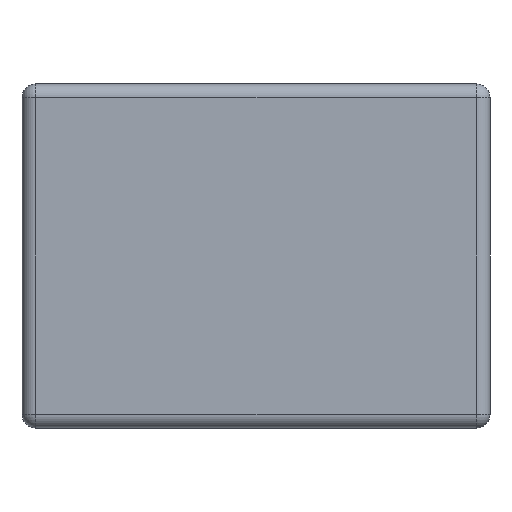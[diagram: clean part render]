
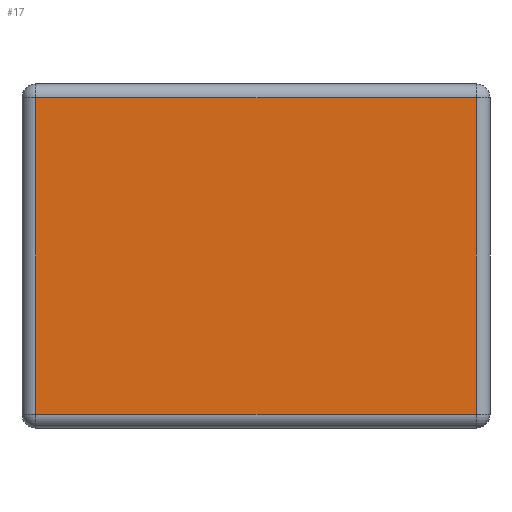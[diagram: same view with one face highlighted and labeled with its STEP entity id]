
A CAD part, left-side view. The second image highlights one B-rep face of the part: STEP entity #17.
In plain terms, the highlighted planar face has unit normal (-1, 0, 0).
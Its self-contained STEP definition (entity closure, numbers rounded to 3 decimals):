
#17 = ADVANCED_FACE('',(#18),#32,.F.);
#18 = FACE_BOUND('',#19,.F.);
#19 = EDGE_LOOP('',(#20,#55,#83,#111));
#20 = ORIENTED_EDGE('',*,*,#21,.F.);
#21 = EDGE_CURVE('',#22,#24,#26,.T.);
#22 = VERTEX_POINT('',#23);
#23 = CARTESIAN_POINT('',(-47.,-159.,218.));
#24 = VERTEX_POINT('',#25);
#25 = CARTESIAN_POINT('',(-47.,-159.,264.));
#26 = SURFACE_CURVE('',#27,(#31,#43),.PCURVE_S1.);
#27 = LINE('',#28,#29);
#28 = CARTESIAN_POINT('',(-47.,-159.,216.));
#29 = VECTOR('',#30,1.);
#30 = DIRECTION('',(0.,0.,1.));
#31 = PCURVE('',#32,#37);
#32 = PLANE('',#33);
#33 = AXIS2_PLACEMENT_3D('',#34,#35,#36);
#34 = CARTESIAN_POINT('',(-47.,-161.,216.));
#35 = DIRECTION('',(1.,0.,0.));
#36 = DIRECTION('',(0.,0.,1.));
#37 = DEFINITIONAL_REPRESENTATION('',(#38),#42);
#38 = LINE('',#39,#40);
#39 = CARTESIAN_POINT('',(0.,-2.));
#40 = VECTOR('',#41,1.);
#41 = DIRECTION('',(1.,0.));
#42 = ( GEOMETRIC_REPRESENTATION_CONTEXT(2) 
PARAMETRIC_REPRESENTATION_CONTEXT() REPRESENTATION_CONTEXT('2D SPACE',''
  ) );
#43 = PCURVE('',#44,#49);
#44 = CYLINDRICAL_SURFACE('',#45,2.);
#45 = AXIS2_PLACEMENT_3D('',#46,#47,#48);
#46 = CARTESIAN_POINT('',(-45.,-159.,216.));
#47 = DIRECTION('',(0.,0.,1.));
#48 = DIRECTION('',(-1.,-0.,0.));
#49 = DEFINITIONAL_REPRESENTATION('',(#50),#54);
#50 = LINE('',#51,#52);
#51 = CARTESIAN_POINT('',(0.,0.));
#52 = VECTOR('',#53,1.);
#53 = DIRECTION('',(0.,1.));
#54 = ( GEOMETRIC_REPRESENTATION_CONTEXT(2) 
PARAMETRIC_REPRESENTATION_CONTEXT() REPRESENTATION_CONTEXT('2D SPACE',''
  ) );
#55 = ORIENTED_EDGE('',*,*,#56,.T.);
#56 = EDGE_CURVE('',#22,#57,#59,.T.);
#57 = VERTEX_POINT('',#58);
#58 = CARTESIAN_POINT('',(-47.,-95.,218.));
#59 = SURFACE_CURVE('',#60,(#64,#71),.PCURVE_S1.);
#60 = LINE('',#61,#62);
#61 = CARTESIAN_POINT('',(-47.,-161.,218.));
#62 = VECTOR('',#63,1.);
#63 = DIRECTION('',(0.,1.,0.));
#64 = PCURVE('',#32,#65);
#65 = DEFINITIONAL_REPRESENTATION('',(#66),#70);
#66 = LINE('',#67,#68);
#67 = CARTESIAN_POINT('',(2.,0.));
#68 = VECTOR('',#69,1.);
#69 = DIRECTION('',(0.,-1.));
#70 = ( GEOMETRIC_REPRESENTATION_CONTEXT(2) 
PARAMETRIC_REPRESENTATION_CONTEXT() REPRESENTATION_CONTEXT('2D SPACE',''
  ) );
#71 = PCURVE('',#72,#77);
#72 = CYLINDRICAL_SURFACE('',#73,2.);
#73 = AXIS2_PLACEMENT_3D('',#74,#75,#76);
#74 = CARTESIAN_POINT('',(-45.,-161.,218.));
#75 = DIRECTION('',(0.,1.,0.));
#76 = DIRECTION('',(-1.,0.,0.));
#77 = DEFINITIONAL_REPRESENTATION('',(#78),#82);
#78 = LINE('',#79,#80);
#79 = CARTESIAN_POINT('',(-0.,0.));
#80 = VECTOR('',#81,1.);
#81 = DIRECTION('',(-0.,1.));
#82 = ( GEOMETRIC_REPRESENTATION_CONTEXT(2) 
PARAMETRIC_REPRESENTATION_CONTEXT() REPRESENTATION_CONTEXT('2D SPACE',''
  ) );
#83 = ORIENTED_EDGE('',*,*,#84,.T.);
#84 = EDGE_CURVE('',#57,#85,#87,.T.);
#85 = VERTEX_POINT('',#86);
#86 = CARTESIAN_POINT('',(-47.,-95.,264.));
#87 = SURFACE_CURVE('',#88,(#92,#99),.PCURVE_S1.);
#88 = LINE('',#89,#90);
#89 = CARTESIAN_POINT('',(-47.,-95.,216.));
#90 = VECTOR('',#91,1.);
#91 = DIRECTION('',(0.,0.,1.));
#92 = PCURVE('',#32,#93);
#93 = DEFINITIONAL_REPRESENTATION('',(#94),#98);
#94 = LINE('',#95,#96);
#95 = CARTESIAN_POINT('',(0.,-66.));
#96 = VECTOR('',#97,1.);
#97 = DIRECTION('',(1.,0.));
#98 = ( GEOMETRIC_REPRESENTATION_CONTEXT(2) 
PARAMETRIC_REPRESENTATION_CONTEXT() REPRESENTATION_CONTEXT('2D SPACE',''
  ) );
#99 = PCURVE('',#100,#105);
#100 = CYLINDRICAL_SURFACE('',#101,2.);
#101 = AXIS2_PLACEMENT_3D('',#102,#103,#104);
#102 = CARTESIAN_POINT('',(-45.,-95.,216.));
#103 = DIRECTION('',(0.,0.,1.));
#104 = DIRECTION('',(-1.,-0.,0.));
#105 = DEFINITIONAL_REPRESENTATION('',(#106),#110);
#106 = LINE('',#107,#108);
#107 = CARTESIAN_POINT('',(-0.,0.));
#108 = VECTOR('',#109,1.);
#109 = DIRECTION('',(-0.,1.));
#110 = ( GEOMETRIC_REPRESENTATION_CONTEXT(2) 
PARAMETRIC_REPRESENTATION_CONTEXT() REPRESENTATION_CONTEXT('2D SPACE',''
  ) );
#111 = ORIENTED_EDGE('',*,*,#112,.F.);
#112 = EDGE_CURVE('',#24,#85,#113,.T.);
#113 = SURFACE_CURVE('',#114,(#118,#125),.PCURVE_S1.);
#114 = LINE('',#115,#116);
#115 = CARTESIAN_POINT('',(-47.,-161.,264.));
#116 = VECTOR('',#117,1.);
#117 = DIRECTION('',(0.,1.,0.));
#118 = PCURVE('',#32,#119);
#119 = DEFINITIONAL_REPRESENTATION('',(#120),#124);
#120 = LINE('',#121,#122);
#121 = CARTESIAN_POINT('',(48.,0.));
#122 = VECTOR('',#123,1.);
#123 = DIRECTION('',(0.,-1.));
#124 = ( GEOMETRIC_REPRESENTATION_CONTEXT(2) 
PARAMETRIC_REPRESENTATION_CONTEXT() REPRESENTATION_CONTEXT('2D SPACE',''
  ) );
#125 = PCURVE('',#126,#131);
#126 = CYLINDRICAL_SURFACE('',#127,2.);
#127 = AXIS2_PLACEMENT_3D('',#128,#129,#130);
#128 = CARTESIAN_POINT('',(-45.,-161.,264.));
#129 = DIRECTION('',(0.,1.,0.));
#130 = DIRECTION('',(-1.,0.,0.));
#131 = DEFINITIONAL_REPRESENTATION('',(#132),#136);
#132 = LINE('',#133,#134);
#133 = CARTESIAN_POINT('',(0.,0.));
#134 = VECTOR('',#135,1.);
#135 = DIRECTION('',(0.,1.));
#136 = ( GEOMETRIC_REPRESENTATION_CONTEXT(2) 
PARAMETRIC_REPRESENTATION_CONTEXT() REPRESENTATION_CONTEXT('2D SPACE',''
  ) );
